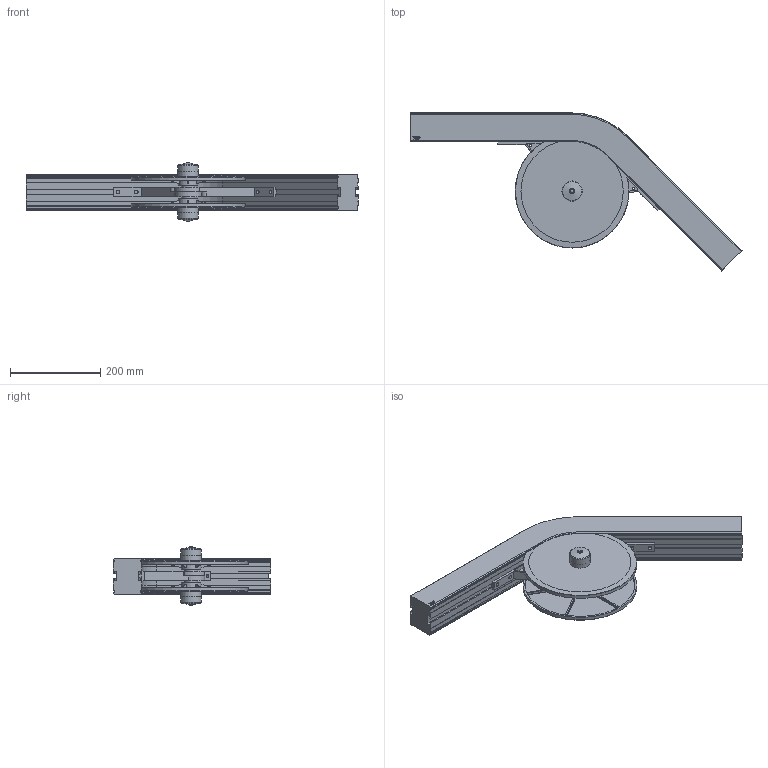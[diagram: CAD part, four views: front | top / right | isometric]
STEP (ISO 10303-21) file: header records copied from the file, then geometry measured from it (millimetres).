
FILE_DESCRIPTION((''),'2;1');
FILE_NAME('C:\Vault Klient\Projekt\Koncept konstruktion\Serie 620 Hjulkurva\620-5000.stp','2009-12-01T15:18:54',('Mathias'),(''),'Autodesk Inventor 2010','Autodesk Inventor 2010','');
FILE_SCHEMA(('CONFIG_CONTROL_DESIGN'));
Length unit declared in the file: millimetre
Products named in the file (5): 620-5000; 620-1000_01; 830-5026; 830-5027; FCWA-0413-025
Assembly tree (7 placements, depth 2):
  620-5000
    620-1000_01
    830-5026  x2
    830-5027  x2
    FCWA-0413-025  x2
Bounding box: 735.18 x 349.78 x 131.94 mm (x, y, z)
Volume: 4451629.5 mm3; surface area: 636426.2 mm2
Topology: 7 solids, 7 shells, 513 faces, 1344 edges, 868 vertices
Faces by surface type: plane 255, cylinder 120, bspline 88, cone 36, torus 10, sphere 4
Full cylindrical faces by diameter (mm): 6 x16, 29.5 x2, 30 x2, 34.5 x4, 41.3 x2, 45 x2, 50.3 x2, 252 x2
Entity records: 11810 total; most frequent: CARTESIAN_POINT 3615, ORIENTED_EDGE 1708, DIRECTION 1523, EDGE_CURVE 854, VERTEX_POINT 567, AXIS2_PLACEMENT_3D 511, VECTOR 501, LINE 501
